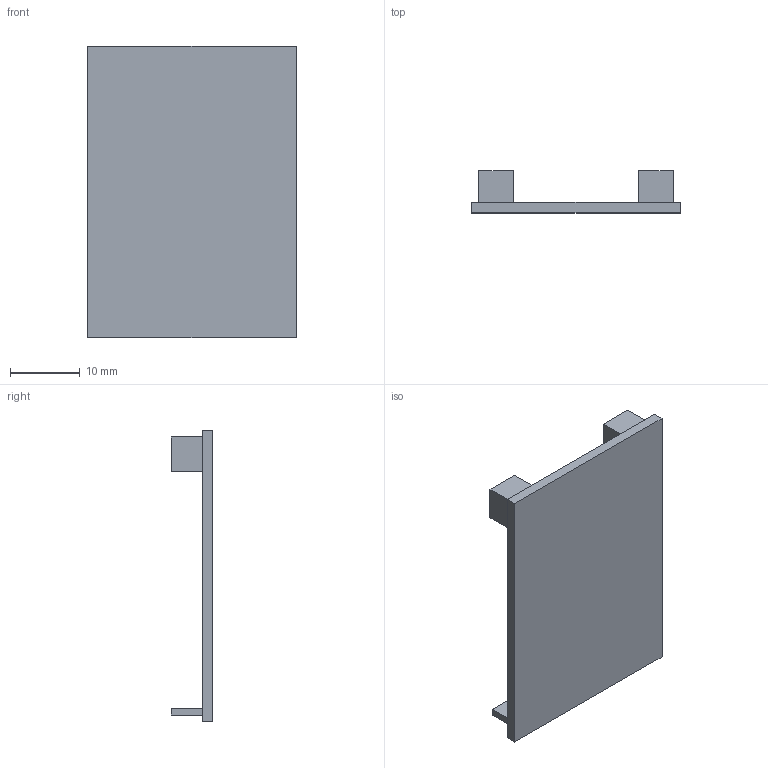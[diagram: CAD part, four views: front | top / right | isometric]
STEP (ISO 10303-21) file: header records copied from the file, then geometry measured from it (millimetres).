
FILE_DESCRIPTION(('STEP AP242'),'1');
FILE_NAME('OPO_56.037.37_volu_3d.stp','2026-01-30T20:43:59',(' '),(' '),'Spatial InterOp 3D',' ',' ');
FILE_SCHEMA(('AP242_MANAGED_MODEL_BASED_3D_ENGINEERING_MIM_LF {1 0 10303 442 1 1 4}'));
Length unit declared in the file: millimetre
Products named in the file (1): 1
Bounding box: 30 x 6 x 42 mm (x, y, z)
Volume: 2155.5 mm3; surface area: 3015 mm2
Topology: 1 solids, 1 shells, 68 faces, 172 edges, 114 vertices
Faces by surface type: plane 48, cylinder 20
Entity records: 2600 total; most frequent: CARTESIAN_POINT 355, DIRECTION 350, ORIENTED_EDGE 344, EDGE_CURVE 172, LINE 132, VECTOR 132, VERTEX_POINT 114, AXIS2_PLACEMENT_3D 109
